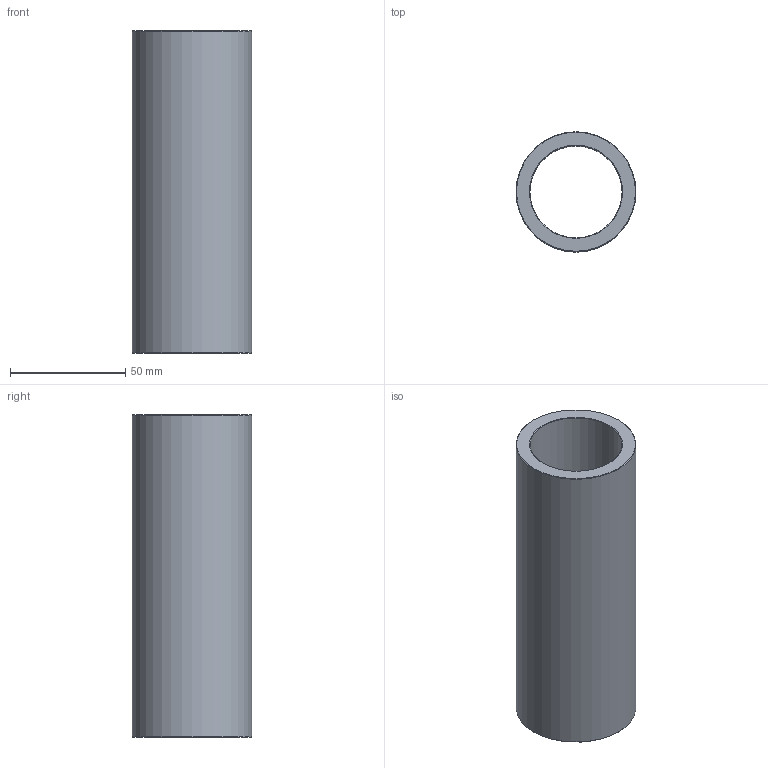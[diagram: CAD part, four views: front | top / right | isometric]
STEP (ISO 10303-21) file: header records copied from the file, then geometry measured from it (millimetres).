
FILE_DESCRIPTION(('STEP AP203'),'1');
FILE_NAME('C:/Users/Rodrigo/Desktop/GA6.040.140-1.step','2016-11-07T18:56:20',(' '),(' '),'Spatial InterOp 3D',' ',' ');
FILE_SCHEMA(('CONFIG_CONTROL_DESIGN'));
Length unit declared in the file: millimetre
Products named in the file (1): 1
Bounding box: 52 x 52 x 140 mm (x, y, z)
Volume: 121379.6 mm3; surface area: 42130.1 mm2
Topology: 1 solids, 1 shells, 8 faces, 14 edges, 8 vertices
Faces by surface type: cone 4, cylinder 2, plane 2
Full cylindrical faces by diameter (mm): 40 x1, 52 x1
Entity records: 212 total; most frequent: DIRECTION 34, CARTESIAN_POINT 25, AXIS2_PLACEMENT_3D 17, EDGE_LOOP 16, ORIENTED_EDGE 16, FACE_OUTER_BOUND 10, ADVANCED_FACE 8, EDGE_CURVE 8
